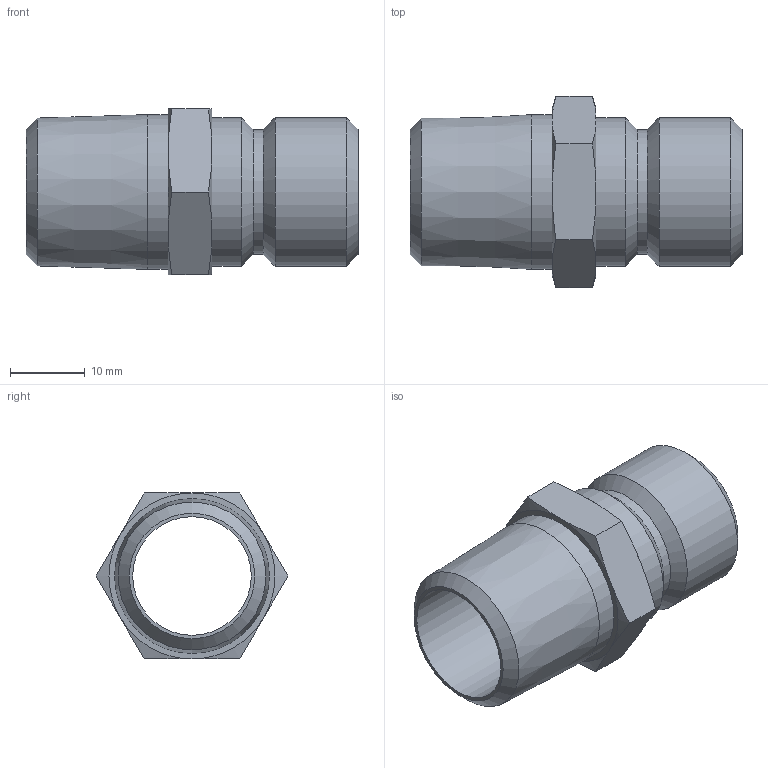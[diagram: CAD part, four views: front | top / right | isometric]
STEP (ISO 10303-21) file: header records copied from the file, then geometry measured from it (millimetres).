
FILE_DESCRIPTION( ( 'STEP AP214' ), ' ' );
FILE_NAME( 'p:/temp/worker_9/2032_996/app_58_12017121412412099929287260eae72_000000_00_00_000000/format_0/JP-554.stp', '2017-12-14T11:41:20', ( '' ), ( '' ), ' ', 'PARTsolutions', ' ' );
FILE_SCHEMA( ( 'AUTOMOTIVE_DESIGN { 1 0 10303 214 1 1 1 1 }' ) );
Length unit declared in the file: inch
Products named in the file (1): _JP-554
Bounding box: 44.45 x 25.66 x 22.23 mm (x, y, z)
Volume: 5509 mm3; surface area: 5439.1 mm2
Topology: 1 solids, 1 shells, 32 faces, 65 edges, 37 vertices
Faces by surface type: cone 17, plane 10, cylinder 5
Full cylindrical faces by diameter (mm): 15.875 x1, 16.706 x1, 19.888 x2, 20.716 x1
Entity records: 1120 total; most frequent: CARTESIAN_POINT 245, DIRECTION 122, ORIENTED_EDGE 110, AXIS2_PLACEMENT_3D 58, EDGE_CURVE 55, EDGE_LOOP 46, FACE_OUTER_BOUND 37, VERTEX_POINT 37
